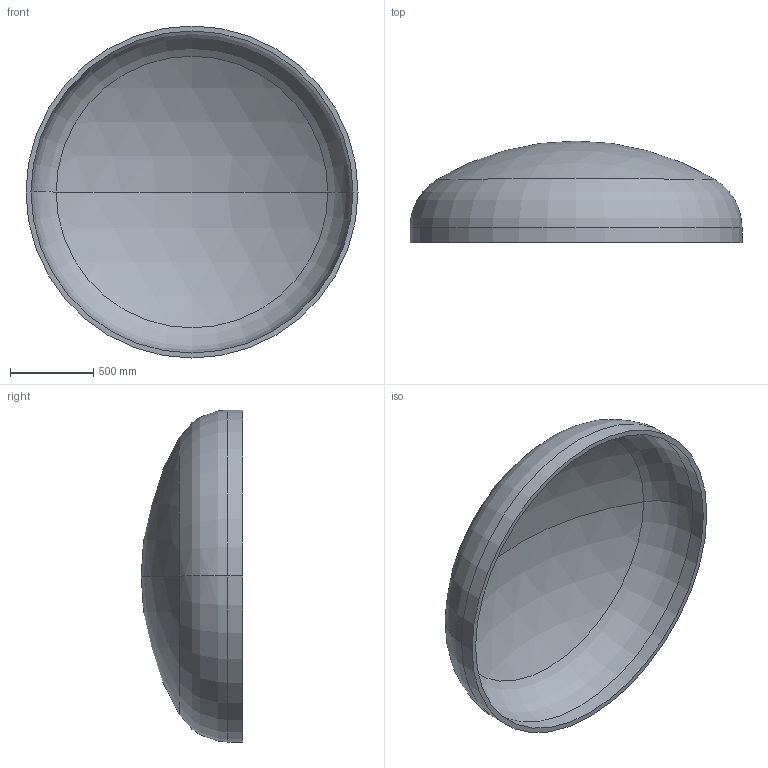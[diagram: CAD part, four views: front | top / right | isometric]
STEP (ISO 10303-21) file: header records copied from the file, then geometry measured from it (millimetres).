
FILE_DESCRIPTION (( 'STEP AP203' ), '1' );
FILE_NAME ('DIN 28013 Korbbogenform_-_Boden DIN 28013 - 2000 x 90 - I - s=30.step', '2016-07-01T13:46:18', ( '' ), ( '' ), 'SwSTEP 2.0', 'SolidWorks 2013', '' );
FILE_SCHEMA (( 'CONFIG_CONTROL_DESIGN' ));
Length unit declared in the file: millimetre
Products named in the file (1): DIN 28013 Korbbogenform_-_Boden DIN 28013 - 2000 x 90 - I - s=30
Bounding box: 2000 x 611.62 x 2000 mm (x, y, z)
Volume: 144845718.7 mm3; surface area: 9843931 mm2
Topology: 1 solids, 1 shells, 13 faces, 24 edges, 14 vertices
Faces by surface type: torus 4, cylinder 4, sphere 4, plane 1
Entity records: 407 total; most frequent: DIRECTION 72, CARTESIAN_POINT 52, ORIENTED_EDGE 48, AXIS2_PLACEMENT_3D 34, EDGE_CURVE 24, CIRCLE 20, EDGE_LOOP 14, VERTEX_POINT 14
